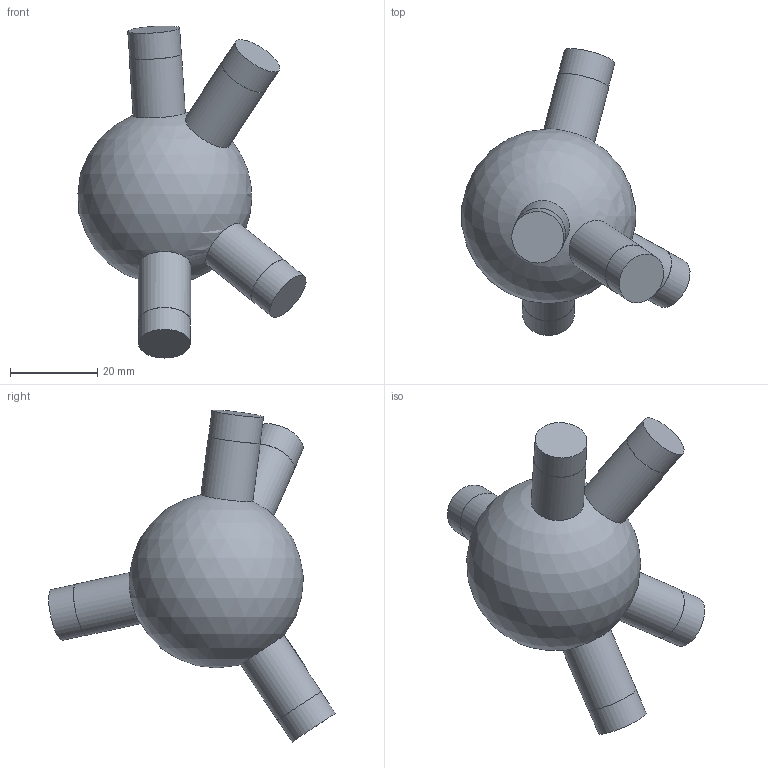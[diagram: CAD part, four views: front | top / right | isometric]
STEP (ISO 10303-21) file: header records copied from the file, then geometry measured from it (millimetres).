
FILE_DESCRIPTION(('Open CASCADE Model'),'2;1');
FILE_NAME('Open CASCADE Shape Model','2026-10-21T12:47:57',('Author'),( 'Open CASCADE'),'Open CASCADE STEP processor 7.9','Open CASCADE 7.9' ,'Unknown');
FILE_SCHEMA(('AUTOMOTIVE_DESIGN { 1 0 10303 214 1 1 1 1 }'));
Length unit declared in the file: millimetre
Products named in the file (1): Open CASCADE STEP translator 7.9 142
Bounding box: 52.26 x 65.71 x 76.1 mm (x, y, z)
Volume: 44833.7 mm3; surface area: 8884.5 mm2
Topology: 1 solids, 1 shells, 21 faces, 33 edges, 22 vertices
Faces by surface type: cylinder 10, plane 10, sphere 1
Full cylindrical faces by diameter (mm): 11.9 x5, 12 x5
Entity records: 1254 total; most frequent: CARTESIAN_POINT 496, DIRECTION 156, ORIENTED_EDGE 64, PCURVE 64, DEFINITIONAL_REPRESENTATION 64, LINE 53, VECTOR 53, AXIS2_PLACEMENT_3D 44
